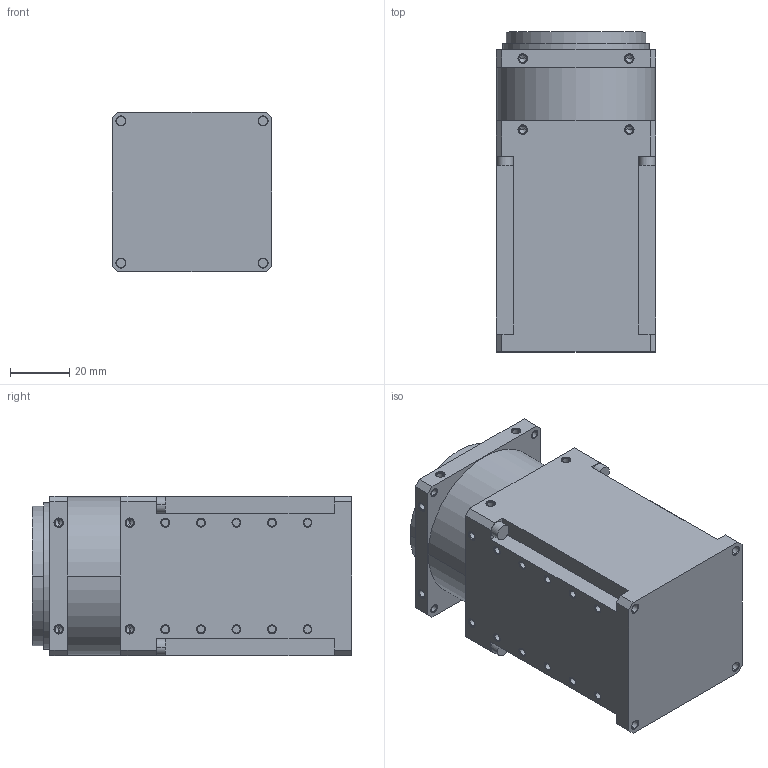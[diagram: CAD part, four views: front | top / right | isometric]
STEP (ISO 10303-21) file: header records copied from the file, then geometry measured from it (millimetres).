
FILE_DESCRIPTION((''),'2;1');
FILE_NAME('H54-100-S500-R','2013-01-25T',('hoya'),(''),'PRO/ENGINEER BY PARAMETRIC TECHNOLOGY CORPORATION, 2011330','PRO/ENGINEER BY PARAMETRIC TECHNOLOGY CORPORATION, 2011330','');
FILE_SCHEMA(('CONFIG_CONTROL_DESIGN'));
Length unit declared in the file: millimetre
Products named in the file (1): H54-100-S500-R
Bounding box: 54 x 108 x 54 mm (x, y, z)
Volume: 284601.9 mm3; surface area: 35399.1 mm2
Topology: 1 solids, 49 shells, 485 faces, 1174 edges, 740 vertices
Faces by surface type: cylinder 221, cone 144, plane 120
Entity records: 14023 total; most frequent: DIRECTION 2730, CARTESIAN_POINT 2368, ORIENTED_EDGE 2060, EDGE_CURVE 1126, AXIS2_PLACEMENT_3D 1122, VERTEX_POINT 740, CIRCLE 636, EDGE_LOOP 598
